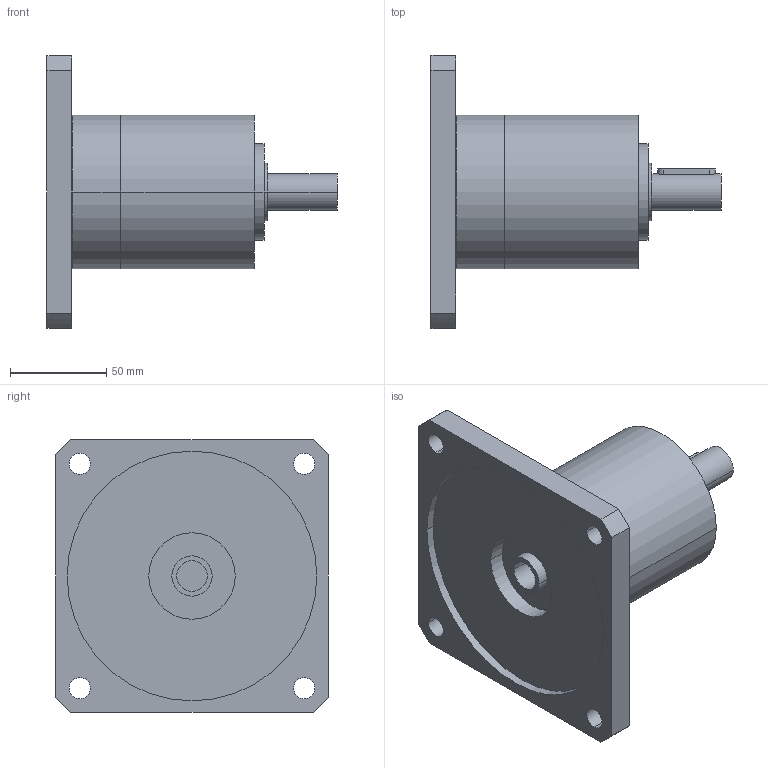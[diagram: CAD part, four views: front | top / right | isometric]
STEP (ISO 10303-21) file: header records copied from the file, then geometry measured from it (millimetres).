
FILE_DESCRIPTION(('CoCreate Modeling STEP Export'),'2;1');
FILE_NAME('GPR100_ig-3-4-5-6_19_B14_15.87_P16.stp','2014-08-26T10:07:42',(''),(''),'CoCreate Modeling STEP processor for AP214 (Solid Model)','CoCreate Modeling 16.00C 25-Feb-2009 (C) Parametric Technology GmbH','');
FILE_SCHEMA(('AUTOMOTIVE_DESIGN { 1 0 10303 214 1 1 1 1 }'));
Length unit declared in the file: millimetre
Products named in the file (2): GPR100_ig-3-4-5-6_19_B14_15.87_P16
Assembly tree (1 placements, depth 2):
  GPR100_ig-3-4-5-6_19_B14_15.87_P16
    GPR100_ig-3-4-5-6_19_B14_15.87_P16
Bounding box: 151 x 142 x 142 mm (x, y, z)
Volume: 674580.5 mm3; surface area: 82465.2 mm2
Topology: 1 solids, 1 shells, 70 faces, 185 edges, 129 vertices
Faces by surface type: cylinder 42, plane 22, cone 6
Entity records: 1924 total; most frequent: ORIENTED_EDGE 366, CARTESIAN_POINT 357, DIRECTION 262, EDGE_CURVE 183, VERTEX_POINT 129, AXIS2_PLACEMENT_3D 98, EDGE_LOOP 92, FACE_OUTER_BOUND 70
